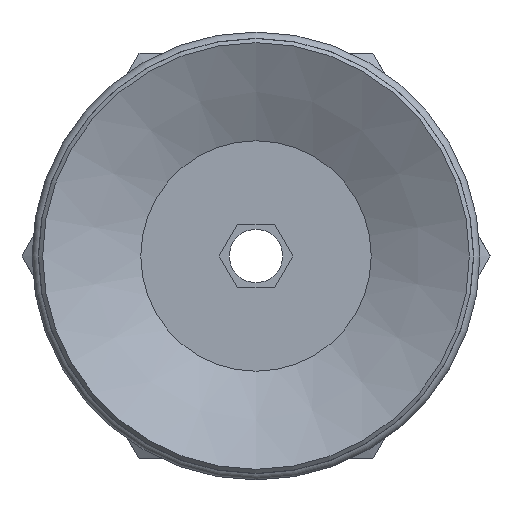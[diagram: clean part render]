
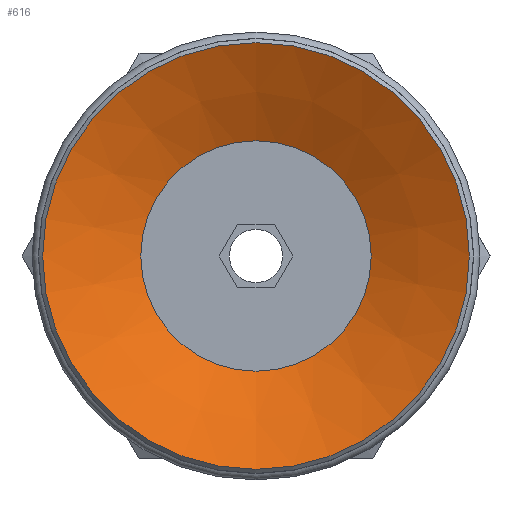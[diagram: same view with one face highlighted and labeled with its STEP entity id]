
A CAD part, front view. The second image highlights one B-rep face of the part: STEP entity #616.
In plain terms, the highlighted conical face has half-angle 63 degrees and reference radius 5.4 mm.
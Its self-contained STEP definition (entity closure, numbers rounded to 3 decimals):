
#616=ADVANCED_FACE('',(#924,#925),#926,.F.);
#924=FACE_BOUND('',#1307,.T.);
#925=FACE_OUTER_BOUND('',#1308,.T.);
#926=CONICAL_SURFACE('',#1309,5.4,1.1);
#1307=EDGE_LOOP('',(#2324));
#1308=EDGE_LOOP('',(#2325));
#1309=AXIS2_PLACEMENT_3D('',#2326,#2327,#2328);
#2324=ORIENTED_EDGE('',*,*,#2815,.F.);
#2325=ORIENTED_EDGE('',*,*,#2821,.T.);
#2326=CARTESIAN_POINT('',(0.0,5.518,0.0));
#2327=DIRECTION('',(-0.0,-1.0,0.));
#2328=DIRECTION('',(0.0,0.,-1.0));
#2815=EDGE_CURVE('',#3208,#3208,#3209,.T.);
#2821=EDGE_CURVE('',#3220,#3220,#3221,.T.);
#3208=VERTEX_POINT('',#4058);
#3209=CIRCLE('',#4059,5.4);
#3220=VERTEX_POINT('',#4070);
#3221=CIRCLE('',#4071,10.0);
#4058=CARTESIAN_POINT('',(0.0,5.518,-5.4));
#4059=AXIS2_PLACEMENT_3D('',#4815,#4816,#4817);
#4070=CARTESIAN_POINT('',(0.0,3.175,-10.0));
#4071=AXIS2_PLACEMENT_3D('',#4833,#4834,#4835);
#4815=CARTESIAN_POINT('',(0.0,5.518,0.0));
#4816=DIRECTION('',(0.0,-1.0,0.));
#4817=DIRECTION('',(0.0,0.,-1.0));
#4833=CARTESIAN_POINT('',(0.0,3.175,0.0));
#4834=DIRECTION('',(0.0,-1.0,0.));
#4835=DIRECTION('',(0.0,0.,-1.0));
